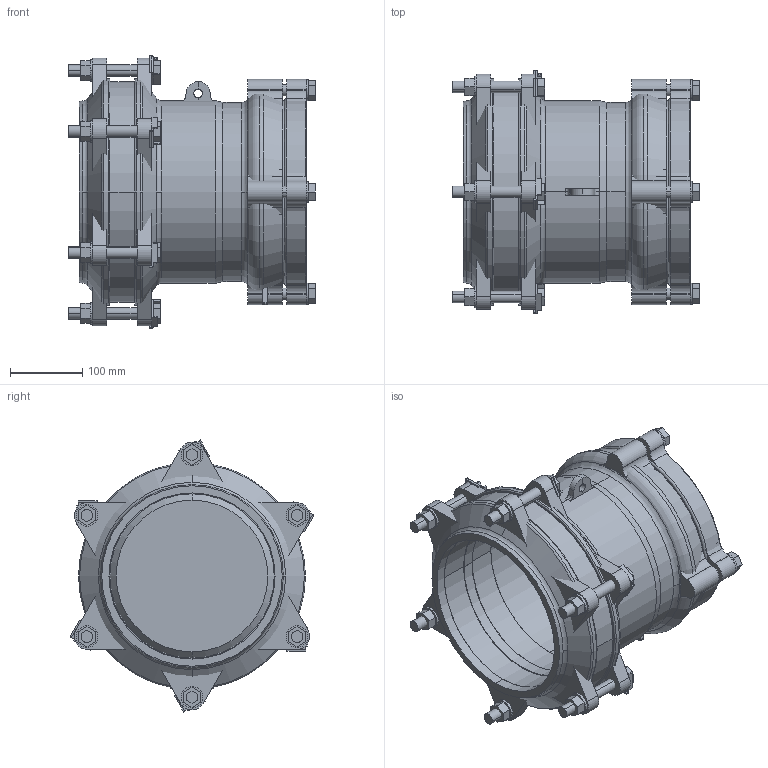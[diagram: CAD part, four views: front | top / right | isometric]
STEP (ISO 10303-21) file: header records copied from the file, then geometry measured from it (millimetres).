
FILE_DESCRIPTION(('STEP AP214'),'1');
FILE_NAME('MJB00056 DN200-PE225.STP','2015-02-06T10:51:00',(' '),(' '),'Spatial InterOp 3D',' ',' ');
FILE_SCHEMA(('automotive_design'));
Length unit declared in the file: millimetre
Products named in the file (78): 3D-Objekt
Bounding box: 342 x 337.88 x 376.92 mm (x, y, z)
Volume: 6233327.3 mm3; surface area: 1286951.6 mm2
Topology: 78 solids, 78 shells, 590 faces, 1286 edges, 852 vertices
Faces by surface type: plane 403, cylinder 145, torus 24, cone 18
Entity records: 22664 total; most frequent: DIRECTION 3004, CARTESIAN_POINT 2806, ORIENTED_EDGE 2572, EDGE_CURVE 1286, AXIS2_PLACEMENT_3D 1050, LINE 904, VECTOR 904, VERTEX_POINT 852
